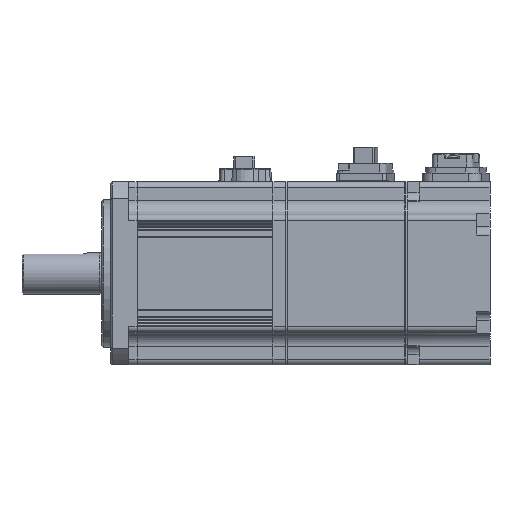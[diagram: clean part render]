
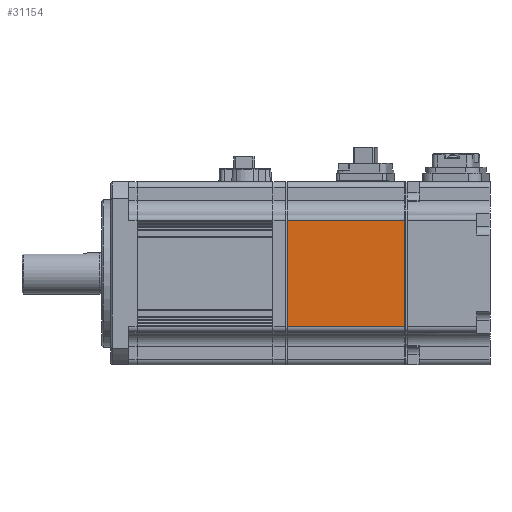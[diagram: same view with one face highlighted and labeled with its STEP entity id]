
A CAD part, left-side view. The second image highlights one B-rep face of the part: STEP entity #31154.
In plain terms, the highlighted planar face has unit normal (-1, 0, 0).
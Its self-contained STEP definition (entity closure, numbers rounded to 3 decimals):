
#2735=FACE_OUTER_BOUND('',#4504,.T.);
#4504=EDGE_LOOP('',(#22273,#22274,#22275,#22276));
#6648=LINE('',#44962,#9957);
#6649=LINE('',#44968,#9958);
#6650=LINE('',#44969,#9959);
#6651=LINE('',#44970,#9960);
#9957=VECTOR('',#36656,39.7);
#9958=VECTOR('',#36663,39.7);
#9959=VECTOR('',#36664,36.);
#9960=VECTOR('',#36665,36.);
#13294=VERTEX_POINT('',#44960);
#13295=VERTEX_POINT('',#44961);
#13296=VERTEX_POINT('',#44966);
#13297=VERTEX_POINT('',#44967);
#16796=EDGE_CURVE('',#13294,#13295,#6648,.T.);
#16799=EDGE_CURVE('',#13296,#13297,#6649,.T.);
#16800=EDGE_CURVE('',#13296,#13294,#6650,.T.);
#16801=EDGE_CURVE('',#13295,#13297,#6651,.T.);
#22273=ORIENTED_EDGE('',*,*,#16799,.F.);
#22274=ORIENTED_EDGE('',*,*,#16800,.T.);
#22275=ORIENTED_EDGE('',*,*,#16796,.T.);
#22276=ORIENTED_EDGE('',*,*,#16801,.T.);
#29955=PLANE('',#33117);
#31154=ADVANCED_FACE('',(#2735),#29955,.F.);
#33117=AXIS2_PLACEMENT_3D('',#44965,#36661,#36662);
#36656=DIRECTION('',(0.,1.,0.));
#36661=DIRECTION('center_axis',(1.,0.,0.));
#36662=DIRECTION('ref_axis',(0.,0.,1.));
#36663=DIRECTION('',(0.,1.,0.));
#36664=DIRECTION('',(0.,0.,1.));
#36665=DIRECTION('',(0.,0.,-1.));
#44960=CARTESIAN_POINT('',(-31.,-99.5,18.));
#44961=CARTESIAN_POINT('',(-31.,-59.8,18.));
#44962=CARTESIAN_POINT('',(-31.,-100.,18.));
#44965=CARTESIAN_POINT('Origin',(-31.,-100.,-18.));
#44966=CARTESIAN_POINT('',(-31.,-99.5,-18.));
#44967=CARTESIAN_POINT('',(-31.,-59.8,-18.));
#44968=CARTESIAN_POINT('',(-31.,-100.,-18.));
#44969=CARTESIAN_POINT('',(-31.,-99.5,18.));
#44970=CARTESIAN_POINT('',(-31.,-59.8,-18.));
